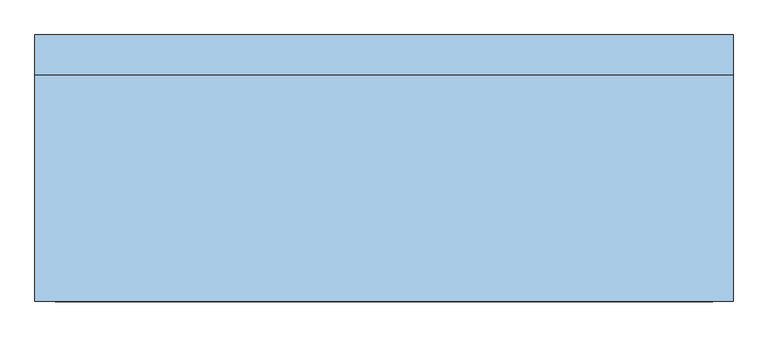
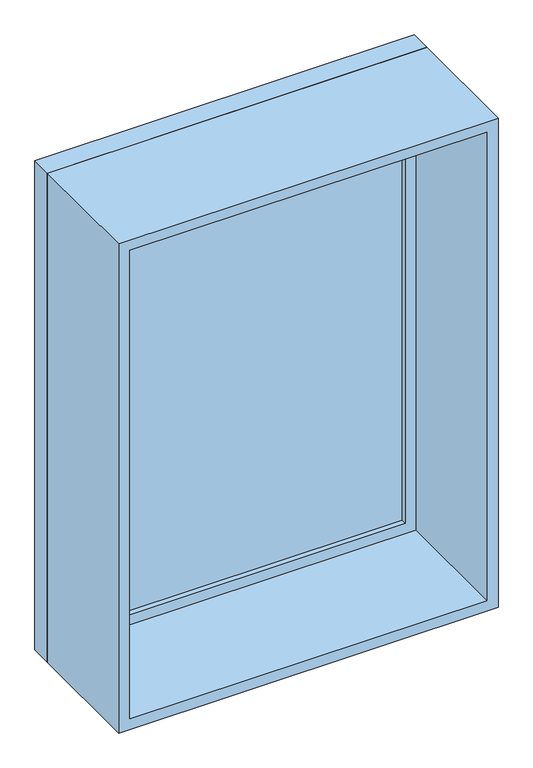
"""IFC4 building model written with IfcOpenShell, lengths in millimetres: window geometry, M_Неподвижный : 15х11."""

import ifcopenshell
import ifcopenshell.guid

model = None  # the IFC model being written
_history = None  # IfcOwnerHistory: only IFC2X3 demands one
_inside = {}  # id of a spatial element -> (the spatial element, [elements in it])
_under = {}  # id of a project, library or spatial element -> (it, [spatial elements below it])
_declared = {}  # id of a project -> (the project, [libraries it declares])
_typed = {}  # id of a type object -> (the type object, [elements of that type])
_made_of = {}  # id of a material, layer set ... -> (it, [elements and type objects made of it])


def new_model(schema):
    """Start an empty IFC model of exactly this schema.

    Asked for "IFC4X3", IfcOpenShell would pick the latest addendum, in which some entities
    have other attributes; the version numbers below select the first issue.
    IFC2X3 requires an IfcOwnerHistory on every rooted entity: one is made here for all.
    """
    global model, _history
    if schema == "IFC4X3":
        model = ifcopenshell.file(schema_version=(4, 3, 0, 0))
    else:
        model = ifcopenshell.file(schema=schema)
    _inside.clear()
    _under.clear()
    _declared.clear()
    _typed.clear()
    _made_of.clear()
    _history = None
    if model.schema == "IFC2X3":
        org = make("IfcOrganization", Name="unknown")
        user = make(
            "IfcPersonAndOrganization",
            ThePerson=make("IfcPerson", FamilyName="unknown"),
            TheOrganization=org,
        )
        app = make(
            "IfcApplication",
            ApplicationDeveloper=org,
            Version="unknown",
            ApplicationFullName="unknown",
            ApplicationIdentifier="unknown",
        )
        _history = make(
            "IfcOwnerHistory",
            OwningUser=user,
            OwningApplication=app,
            ChangeAction="ADDED",
            CreationDate=0,
        )
    return model


def make(cls, **values):
    """One entity of the class cls with the attributes given. An attribute that is None is left unset."""
    return model.create_entity(
        cls, **{name: value for name, value in values.items() if value is not None}
    )


def rooted(cls, **values):
    """An entity with a GlobalId (a new one), such as an element, a storey or a relation."""
    return make(cls, GlobalId=ifcopenshell.guid.new(), OwnerHistory=_history, **values)


def si_unit(unit_type, name, prefix=None):
    """IfcSIUnit, for example si_unit("LENGTHUNIT", "METRE", prefix="MILLI")."""
    return make("IfcSIUnit", UnitType=unit_type, Prefix=prefix, Name=name)


def assignment(units):
    """IfcUnitAssignment: the units of a project."""
    return None if units is None else make("IfcUnitAssignment", Units=units)


def point(xyz):
    """IfcCartesianPoint."""
    return None if xyz is None else make("IfcCartesianPoint", Coordinates=xyz)


def direction(xyz):
    """IfcDirection."""
    return None if xyz is None else make("IfcDirection", DirectionRatios=xyz)


def frame(location, z_axis=None, x_axis=None):
    """IfcAxis2Placement3D, a coordinate frame: its origin and axes. An axis left out is left unset."""
    return make(
        "IfcAxis2Placement3D",
        Location=point(location),
        Axis=direction(z_axis),
        RefDirection=direction(x_axis),
    )


def origin():
    """The frame at (0, 0, 0) with its axes left unset."""
    return frame((0.0, 0.0, 0.0))


def place(relative_to, where):
    """IfcLocalPlacement: puts the frame where relative to a parent placement (None: the world)."""
    return make(
        "IfcLocalPlacement", PlacementRelTo=relative_to, RelativePlacement=where
    )


def context(
    kind, dimensions, precision=None, world=None, true_north=None, identifier=None
):
    """IfcGeometricRepresentationContext, for example the 3D "Model" context."""
    return make(
        "IfcGeometricRepresentationContext",
        ContextIdentifier=identifier,
        ContextType=kind,
        CoordinateSpaceDimension=dimensions,
        Precision=precision,
        WorldCoordinateSystem=world,
        TrueNorth=true_north,
    )


def project(units=None, contexts=None):
    """IfcProject with its units and contexts."""
    return rooted(
        "IfcProject",
        Name="project",
        RepresentationContexts=contexts,
        UnitsInContext=assignment(units),
    )


def spatial(cls, under=None, at=None, **own):
    """A site, building, storey or space (cls), placed at a placement, below another one or the project."""
    s = rooted(cls, ObjectPlacement=at, **own)
    if under is not None:
        _under.setdefault(under.id(), (under, []))[1].append(s)
    return s


def polyline(points):
    """IfcPolyline through the points."""
    return make("IfcPolyline", Points=[point(p) for p in points])


def outline(outer, holes=None, kind="AREA"):
    """IfcArbitraryClosedProfileDef: a profile drawn as a closed curve; with holes, ...WithVoids."""
    if holes is None:
        return make("IfcArbitraryClosedProfileDef", ProfileType=kind, OuterCurve=outer)
    return make(
        "IfcArbitraryProfileDefWithVoids",
        ProfileType=kind,
        OuterCurve=outer,
        InnerCurves=holes,
    )


def extrude(swept, where, along, depth):
    """IfcExtrudedAreaSolid: the profile swept, set in the frame where, extruded along a direction by depth."""
    return make(
        "IfcExtrudedAreaSolid",
        SweptArea=swept,
        Position=where,
        ExtrudedDirection=direction(along),
        Depth=depth,
    )


def shape(context_of_items, identifier, shape_type, items):
    """IfcShapeRepresentation: the items that make up one representation, for example the "Body"."""
    return make(
        "IfcShapeRepresentation",
        ContextOfItems=context_of_items,
        RepresentationIdentifier=identifier,
        RepresentationType=shape_type,
        Items=items,
    )


def source(mapping_origin, context_of_items, identifier, shape_type, items):
    """IfcRepresentationMap: a shape defined once, which mapped items show again and again."""
    return make(
        "IfcRepresentationMap",
        MappingOrigin=mapping_origin,
        MappedRepresentation=shape(context_of_items, identifier, shape_type, items),
    )


def transform(
    local_origin,
    x_axis=None,
    y_axis=None,
    z_axis=None,
    scale=None,
    scale2=None,
    scale3=None,
    uniform=True,
):
    """IfcCartesianTransformationOperator3D, or its non-uniform kind. x_axis, y_axis, z_axis: its Axis1, 2, 3."""
    if uniform:
        return make(
            "IfcCartesianTransformationOperator3D",
            Axis1=direction(x_axis),
            Axis2=direction(y_axis),
            LocalOrigin=point(local_origin),
            Scale=scale,
            Axis3=direction(z_axis),
        )
    return make(
        "IfcCartesianTransformationOperator3DnonUniform",
        Axis1=direction(x_axis),
        Axis2=direction(y_axis),
        LocalOrigin=point(local_origin),
        Scale=scale,
        Axis3=direction(z_axis),
        Scale2=scale2,
        Scale3=scale3,
    )


def mapped(mapping_source, mapping_target):
    """IfcMappedItem: shows the shape of a source again, moved by a transform."""
    return make(
        "IfcMappedItem", MappingSource=mapping_source, MappingTarget=mapping_target
    )


def made_of(thing, what):
    """Note that an element or type object is made of a material, layer set ...; save() writes the relation."""
    if what is not None:
        _made_of.setdefault(what.id(), (what, []))[1].append(thing)
    return thing


def element(
    cls,
    number,
    at=None,
    inside=None,
    cuts=None,
    type_object=None,
    material=None,
    context=None,
    identifier="Body",
    shape_type=None,
    held_by="IfcProductDefinitionShape",
    body=None,
    shapes=None,
    **own,
):
    """One element of the class cls, such as IfcWall. Its Tag is "e" and its number.

    at: its placement. inside: the storey or other place that contains it. cuts: it is an
    opening in that element (IfcRelVoidsElement). A single representation is given by context,
    identifier, shape_type and body (its items); several are given by shapes. held_by: the class
    of the entity that holds the representations. save() writes the other relations.
    """
    e = rooted(cls, Tag="e%d" % number, ObjectPlacement=at, **own)
    if body is not None:
        shapes = [shape(context, identifier, shape_type, body)]
    if shapes is not None:
        e.Representation = make(held_by, Representations=shapes)
    if inside is not None:
        _inside.setdefault(inside.id(), (inside, []))[1].append(e)
    if cuts is not None:
        rooted(
            "IfcRelVoidsElement", RelatingBuildingElement=cuts, RelatedOpeningElement=e
        )
    if type_object is not None:
        _typed.setdefault(type_object.id(), (type_object, []))[1].append(e)
    return made_of(e, material)


def aggregate(whole, parts):
    """IfcRelAggregates: a whole, such as a stair, and the parts it consists of."""
    return rooted("IfcRelAggregates", RelatingObject=whole, RelatedObjects=parts)


def save(model, path):
    """Write the relations noted so far, then the file.

    IfcRelAggregates (storeys below a building ...), IfcRelContainedInSpatialStructure (elements
    in a storey), IfcRelDefinesByType, IfcRelAssociatesMaterial and IfcRelDeclares: one each for
    every whole, place, type object, material and project.
    """
    for whole, parts in _under.values():
        aggregate(whole, parts)
    for where, things in _inside.values():
        rooted(
            "IfcRelContainedInSpatialStructure",
            RelatedElements=things,
            RelatingStructure=where,
        )
    for kind, things in _typed.values():
        rooted("IfcRelDefinesByType", RelatedObjects=things, RelatingType=kind)
    for what, things in _made_of.values():
        rooted("IfcRelAssociatesMaterial", RelatedObjects=things, RelatingMaterial=what)
    for by, libraries in _declared.values():
        rooted("IfcRelDeclares", RelatingContext=by, RelatedDefinitions=libraries)
    model.write(path)


def window_89472738(model_context):
    return source(origin(), model_context, "Body", "SweptSolid", [
        extrude(outline(polyline([(-487.0, 188.0), (487.0, 188.0), (487.0, 176.0), (-487.0, 176.0), (-487.0, 188.0)])), frame((0.0, 0.0, 978.0), z_axis=(0.0, 0.0, 1.0), x_axis=(1.0, 0.0, 0.0)), (0.0, 0.0, 1.0), 1374.0),
        extrude(outline(polyline([(2396.0, -531.0), (934.0, -531.0), (934.0, 531.0), (2396.0, 531.0), (2396.0, -531.0)]), holes=[polyline([(2352.0, -487.0), (2352.0, 487.0), (978.0, 487.0), (978.0, -487.0), (2352.0, -487.0)])]), frame((0.0, 160.0, 0.0), z_axis=(0.0, 1.0, 0.0), x_axis=(0.0, 0.0, 1.0)), (0.0, 0.0, 1.0), 44.0),
        extrude(outline(polyline([(2415.0, -550.0), (915.0, -550.0), (915.0, 550.0), (2415.0, 550.0), (2415.0, -550.0)]), holes=[polyline([(2396.0, -531.0), (2396.0, 531.0), (934.0, 531.0), (934.0, -531.0), (2396.0, -531.0)])]), frame((0.0, 160.0, 0.0), z_axis=(0.0, 1.0, 0.0), x_axis=(0.0, 0.0, 1.0)), (0.0, 0.0, 1.0), 63.0),
        extrude(outline(polyline([(2415.0, -550.0), (915.0, -550.0), (915.0, 550.0), (2415.0, 550.0), (2415.0, -550.0)]), holes=[polyline([(2383.0, -518.0), (2383.0, 518.0), (947.0, 518.0), (947.0, -518.0), (2383.0, -518.0)])]), frame((0.0, -197.0, 0.0), z_axis=(0.0, 1.0, 0.0), x_axis=(0.0, 0.0, 1.0)), (0.0, 0.0, 1.0), 357.0),
    ])


if __name__ == "__main__":
    model = new_model("IFC4")
    model_context = context("Model", 3, world=origin())
    ifc_project = project(units=[si_unit("LENGTHUNIT", "METRE", prefix="MILLI")], contexts=[model_context])
    site = spatial("IfcSite", under=ifc_project)
    building = spatial("IfcBuilding", under=site)
    placement = place(None, origin())
    window_shape = window_89472738(model_context)
    element("IfcWindow", 1, ObjectType="M_Неподвижный : 15х11", at=placement, inside=building, context=model_context, shape_type="MappedRepresentation", body=[
        mapped(window_shape, transform((0.0, 0.0, 0.0), x_axis=(1.0, 0.0, 0.0), y_axis=(0.0, 1.0, 0.0), z_axis=(0.0, 0.0, 1.0))),
    ])
    save(model, "model.ifc")
